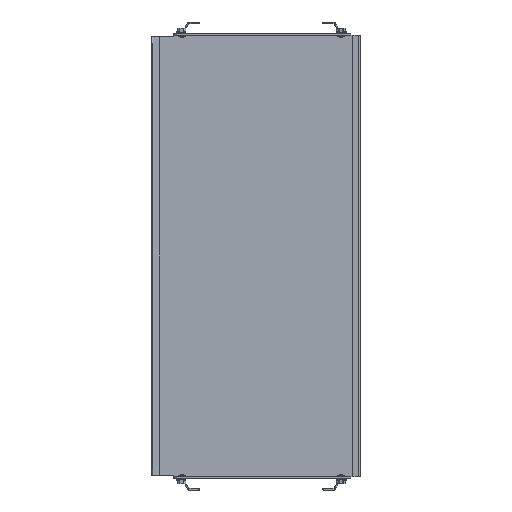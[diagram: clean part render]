
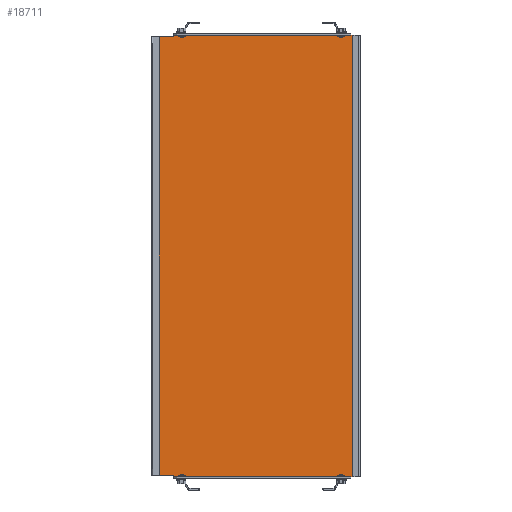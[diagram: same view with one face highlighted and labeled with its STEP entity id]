
A CAD part, front view. The second image highlights one B-rep face of the part: STEP entity #18711.
In plain terms, the highlighted planar face has unit normal (0, -1, 0).
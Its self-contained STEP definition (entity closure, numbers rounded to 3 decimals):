
#17041=CARTESIAN_POINT(' ',(325.4,-2.,-346.4));
#17042=VERTEX_POINT(' ',#17041);
#17086=CARTESIAN_POINT(' ',(325.4,-2.,346.4));
#17087=VERTEX_POINT(' ',#17086);
#17101=CARTESIAN_POINT(' ',(325.4,-2.,346.4));
#17106=DIRECTION(' ',(0.,0.,-1.));
#17111=VECTOR(' ',#17106,1.);
#17116=LINE('',#17101,#17111);
#17121=EDGE_CURVE(' ',#17087,#17042,#17116,.T.);
#18361=DIRECTION(' ',(0.,-1.,-0.));
#18366=CARTESIAN_POINT(' ',(325.4,-2.,-346.4));
#18371=DIRECTION(' ',(0.,0.,1.));
#18376=AXIS2_PLACEMENT_3D(' ',#18366,#18361,#18371);
#18381=PLANE('NONE',#18376);
#18386=CARTESIAN_POINT(' ',(35.,-2.,346.4));
#18391=DIRECTION(' ',(1.,0.,0.));
#18396=VECTOR(' ',#18391,1.);
#18401=LINE('',#18386,#18396);
#18406=CARTESIAN_POINT(' ',(35.,-2.,346.4));
#18407=VERTEX_POINT(' ',#18406);
#18411=CARTESIAN_POINT(' ',(313.,-2.,346.4));
#18412=VERTEX_POINT(' ',#18411);
#18416=EDGE_CURVE(' ',#18407,#18412,#18401,.T.);
#18421=ORIENTED_EDGE(' ',*,*,#18416,.F.);
#18426=CARTESIAN_POINT(' ',(35.,-2.,346.4));
#18431=DIRECTION(' ',(0.,0.,-1.));
#18436=VECTOR(' ',#18431,1.);
#18441=LINE('',#18426,#18436);
#18446=CARTESIAN_POINT(' ',(35.,-2.,344.));
#18447=VERTEX_POINT(' ',#18446);
#18451=EDGE_CURVE(' ',#18407,#18447,#18441,.T.);
#18456=ORIENTED_EDGE(' ',*,*,#18451,.T.);
#18461=CARTESIAN_POINT(' ',(35.,-2.,344.));
#18466=DIRECTION(' ',(-1.,0.,0.));
#18471=VECTOR(' ',#18466,1.);
#18476=LINE('',#18461,#18471);
#18481=CARTESIAN_POINT(' ',(12.077,-2.,344.));
#18482=VERTEX_POINT(' ',#18481);
#18486=EDGE_CURVE(' ',#18447,#18482,#18476,.T.);
#18491=ORIENTED_EDGE(' ',*,*,#18486,.T.);
#18496=CARTESIAN_POINT(' ',(12.077,-2.,344.));
#18501=DIRECTION(' ',(0.,0.,-1.));
#18506=VECTOR(' ',#18501,1.);
#18511=LINE('',#18496,#18506);
#18516=CARTESIAN_POINT(' ',(12.077,-2.,-344.));
#18517=VERTEX_POINT(' ',#18516);
#18521=EDGE_CURVE(' ',#18482,#18517,#18511,.T.);
#18526=ORIENTED_EDGE(' ',*,*,#18521,.T.);
#18531=CARTESIAN_POINT(' ',(12.077,-2.,-344.));
#18536=DIRECTION(' ',(1.,0.,0.));
#18541=VECTOR(' ',#18536,1.);
#18546=LINE('',#18531,#18541);
#18551=CARTESIAN_POINT(' ',(35.,-2.,-344.));
#18552=VERTEX_POINT(' ',#18551);
#18556=EDGE_CURVE(' ',#18517,#18552,#18546,.T.);
#18561=ORIENTED_EDGE(' ',*,*,#18556,.T.);
#18566=CARTESIAN_POINT(' ',(35.,-2.,-344.));
#18571=DIRECTION(' ',(0.,0.,-1.));
#18576=VECTOR(' ',#18571,1.);
#18581=LINE('',#18566,#18576);
#18586=CARTESIAN_POINT(' ',(35.,-2.,-346.4));
#18587=VERTEX_POINT(' ',#18586);
#18591=EDGE_CURVE(' ',#18552,#18587,#18581,.T.);
#18596=ORIENTED_EDGE(' ',*,*,#18591,.T.);
#18601=CARTESIAN_POINT(' ',(313.,-2.,-346.4));
#18606=DIRECTION(' ',(-1.,0.,0.));
#18611=VECTOR(' ',#18606,1.);
#18616=LINE('',#18601,#18611);
#18621=CARTESIAN_POINT(' ',(313.,-2.,-346.4));
#18622=VERTEX_POINT(' ',#18621);
#18626=EDGE_CURVE(' ',#18622,#18587,#18616,.T.);
#18631=ORIENTED_EDGE(' ',*,*,#18626,.F.);
#18636=CARTESIAN_POINT(' ',(313.,-2.,-346.4));
#18641=DIRECTION(' ',(1.,0.,0.));
#18646=VECTOR(' ',#18641,1.);
#18651=LINE('',#18636,#18646);
#18656=EDGE_CURVE(' ',#18622,#17042,#18651,.T.);
#18661=ORIENTED_EDGE(' ',*,*,#18656,.T.);
#18666=ORIENTED_EDGE(' ',*,*,#17121,.F.);
#18671=CARTESIAN_POINT(' ',(313.,-2.,346.4));
#18676=DIRECTION(' ',(1.,0.,0.));
#18681=VECTOR(' ',#18676,1.);
#18686=LINE('',#18671,#18681);
#18691=EDGE_CURVE(' ',#18412,#17087,#18686,.T.);
#18696=ORIENTED_EDGE(' ',*,*,#18691,.F.);
#18701=EDGE_LOOP(' ',(#18421,#18456,#18491,#18526,#18561,#18596,#18631,#18661,#18666,#18696));
#18706=FACE_OUTER_BOUND(' ',#18701,.T.);
#18711=ADVANCED_FACE('NONE',(#18706),#18381,.T.);
